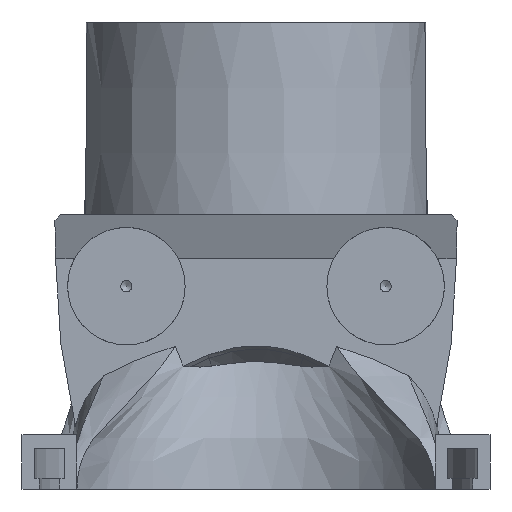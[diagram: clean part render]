
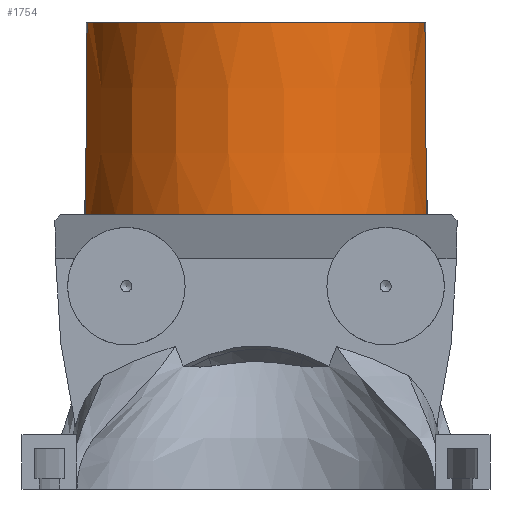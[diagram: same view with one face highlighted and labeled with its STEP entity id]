
A CAD part, front view. The second image highlights one B-rep face of the part: STEP entity #1754.
In plain terms, the highlighted conical face has half-angle 0.5 degrees and reference radius 31.25 mm.
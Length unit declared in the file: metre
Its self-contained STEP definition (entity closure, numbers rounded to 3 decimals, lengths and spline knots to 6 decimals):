
#40=CONICAL_SURFACE('',#1868,0.03125,0.009);
#109=B_SPLINE_CURVE_WITH_KNOTS('',3,(#2823,#2824,#2825,#2826,#2827,#2828,
#2829,#2830,#2831),.UNSPECIFIED.,.F.,.F.,(4,1,1,1,1,1,4),(0.,
0.000441,0.000661,0.000881,0.001102,
0.001322,0.001763),.UNSPECIFIED.);
#172=B_SPLINE_CURVE_WITH_KNOTS('',3,(#6999,#7000,#7001,#7002),
 .UNSPECIFIED.,.F.,.F.,(4,4),(0.,1.),
 .UNSPECIFIED.);
#174=B_SPLINE_CURVE_WITH_KNOTS('',3,(#7011,#7012,#7013,#7014),
 .UNSPECIFIED.,.F.,.F.,(4,4),(0.,0.001781),.UNSPECIFIED.);
#175=B_SPLINE_CURVE_WITH_KNOTS('',3,(#7015,#7016,#7017,#7018),
 .UNSPECIFIED.,.F.,.F.,(4,4),(-0.035,-0.000002),
 .UNSPECIFIED.);
#217=CIRCLE('',#1860,0.03125);
#223=CIRCLE('',#1869,0.030945);
#429=ORIENTED_EDGE('',*,*,#888,.T.);
#430=ORIENTED_EDGE('',*,*,#934,.T.);
#431=ORIENTED_EDGE('',*,*,#847,.F.);
#432=ORIENTED_EDGE('',*,*,#935,.F.);
#433=ORIENTED_EDGE('',*,*,#936,.F.);
#434=ORIENTED_EDGE('',*,*,#931,.T.);
#847=EDGE_CURVE('',#1121,#1122,#109,.T.);
#888=EDGE_CURVE('',#1130,#1155,#217,.T.);
#931=EDGE_CURVE('',#1181,#1130,#172,.F.);
#934=EDGE_CURVE('',#1155,#1122,#174,.T.);
#935=EDGE_CURVE('',#1183,#1121,#175,.T.);
#936=EDGE_CURVE('',#1181,#1183,#223,.T.);
#1121=VERTEX_POINT('',#2822);
#1122=VERTEX_POINT('',#2832);
#1130=VERTEX_POINT('',#2989);
#1155=VERTEX_POINT('',#5532);
#1181=VERTEX_POINT('',#7003);
#1183=VERTEX_POINT('',#7019);
#1486=EDGE_LOOP('',(#429,#430,#431,#432,#433,#434));
#1601=FACE_BOUND('',#1486,.T.);
#1754=ADVANCED_FACE('',(#1601),#40,.T.);
#1860=AXIS2_PLACEMENT_3D('',#5533,#2024,#2025);
#1868=AXIS2_PLACEMENT_3D('',#7010,#2049,#2050);
#1869=AXIS2_PLACEMENT_3D('',#7020,#2051,#2052);
#2024=DIRECTION('',(0.,0.,1.));
#2025=DIRECTION('',(1.,0.,0.));
#2049=DIRECTION('',(0.,0.,-1.));
#2050=DIRECTION('',(1.,0.,0.));
#2051=DIRECTION('',(0.,0.,1.));
#2052=DIRECTION('',(1.,0.,0.));
#2822=CARTESIAN_POINT('',(0.031054,0.071358,0.050001));
#2823=CARTESIAN_POINT('',(0.031054,0.071358,0.050002));
#2824=CARTESIAN_POINT('',(0.031038,0.071212,0.050001));
#2825=CARTESIAN_POINT('',(0.031012,0.070994,0.050001));
#2826=CARTESIAN_POINT('',(0.030974,0.070702,0.05));
#2827=CARTESIAN_POINT('',(0.030944,0.070486,0.050002));
#2828=CARTESIAN_POINT('',(0.030911,0.070258,0.049992));
#2829=CARTESIAN_POINT('',(0.030879,0.070037,0.049769));
#2830=CARTESIAN_POINT('',(0.030866,0.069942,0.049567));
#2831=CARTESIAN_POINT('',(0.030859,0.069889,0.049426));
#2832=CARTESIAN_POINT('',(0.030859,0.069889,0.049426));
#2989=CARTESIAN_POINT('',(-0.031054,0.071358,0.05));
#5532=CARTESIAN_POINT('',(0.030542,0.068234,0.05));
#5533=CARTESIAN_POINT('',(0.,0.07485,0.05));
#6999=CARTESIAN_POINT('',(-0.031054,0.071358,0.05));
#7000=CARTESIAN_POINT('',(-0.030953,0.07137,0.061667));
#7001=CARTESIAN_POINT('',(-0.030852,0.071381,0.073333));
#7002=CARTESIAN_POINT('',(-0.030751,0.071392,0.085));
#7003=CARTESIAN_POINT('',(-0.030751,0.071392,0.085));
#7010=CARTESIAN_POINT('',(0.,0.07485,0.05));
#7011=CARTESIAN_POINT('',(0.030542,0.068234,0.05));
#7012=CARTESIAN_POINT('',(0.030661,0.068778,0.049796));
#7013=CARTESIAN_POINT('',(0.030767,0.06933,0.049604));
#7014=CARTESIAN_POINT('',(0.030859,0.069889,0.049426));
#7015=CARTESIAN_POINT('',(0.030751,0.071392,0.085));
#7016=CARTESIAN_POINT('',(0.030852,0.071381,0.073334));
#7017=CARTESIAN_POINT('',(0.030953,0.07137,0.061668));
#7018=CARTESIAN_POINT('',(0.031054,0.071358,0.050002));
#7019=CARTESIAN_POINT('',(0.030751,0.071392,0.085));
#7020=CARTESIAN_POINT('',(0.,0.07485,0.085));
